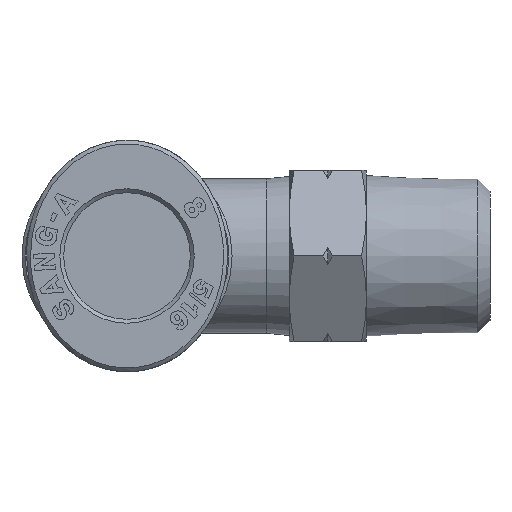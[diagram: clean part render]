
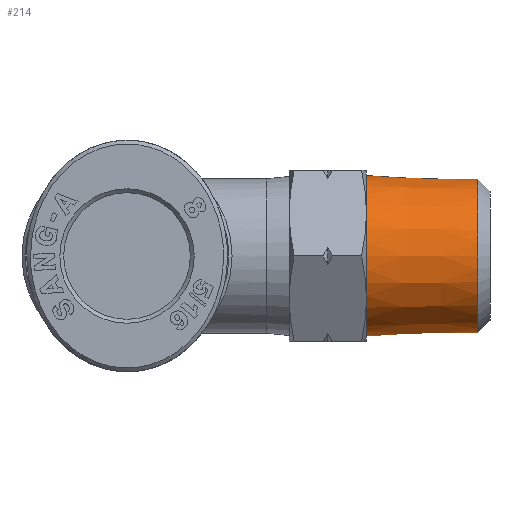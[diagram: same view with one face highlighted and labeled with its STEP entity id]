
A CAD part, front view. The second image highlights one B-rep face of the part: STEP entity #214.
In plain terms, the highlighted conical face has half-angle 1.79 degrees and reference radius 5.082 mm.
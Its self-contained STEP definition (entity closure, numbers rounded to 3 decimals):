
#180=CARTESIAN_POINT('',(13.7,4.982,0.));
#181=VERTEX_POINT('',#180);
#182=CARTESIAN_POINT('',(13.7,0.0,0.));
#183=DIRECTION('',(1.0,0.0,0.0));
#184=DIRECTION('',(0.0,-1.0,0.0));
#185=AXIS2_PLACEMENT_3D('',#182,#183,#184);
#186=CIRCLE('',#185,4.982);
#187=EDGE_CURVE('',#181,#181,#186,.T.);
#195=CARTESIAN_POINT('',(10.5,0.0,0.0));
#196=DIRECTION('',(-1.0,0.0,0.0));
#197=DIRECTION('',(0.0,1.0,0.0));
#198=AXIS2_PLACEMENT_3D('',#195,#196,#197);
#199=CONICAL_SURFACE('',#198,5.083,1.79);
#200=CARTESIAN_POINT('',(6.5,5.208,0.0));
#201=VERTEX_POINT('',#200);
#202=CARTESIAN_POINT('',(6.5,0.0,0.0));
#203=DIRECTION('',(1.0,0.0,0.0));
#204=DIRECTION('',(0.0,1.0,0.0));
#205=AXIS2_PLACEMENT_3D('',#202,#203,#204);
#206=CIRCLE('',#205,5.208);
#207=EDGE_CURVE('',#201,#201,#206,.T.);
#208=ORIENTED_EDGE('',*,*,#207,.T.);
#209=EDGE_LOOP('',(#208));
#210=FACE_OUTER_BOUND('',#209,.T.);
#211=ORIENTED_EDGE('',*,*,#187,.F.);
#212=EDGE_LOOP('',(#211));
#213=FACE_BOUND('',#212,.T.);
#214=ADVANCED_FACE('',(#210,#213),#199,.T.);
